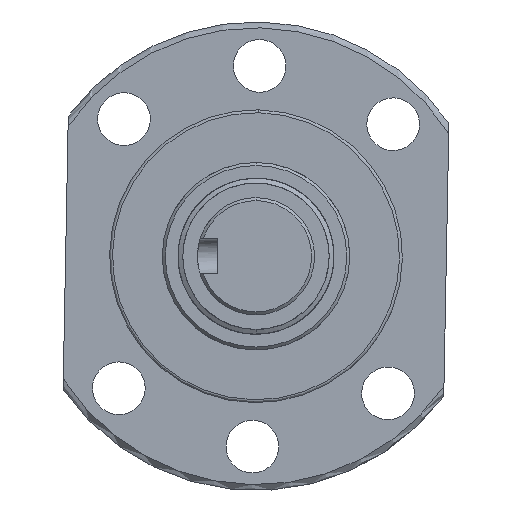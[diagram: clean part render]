
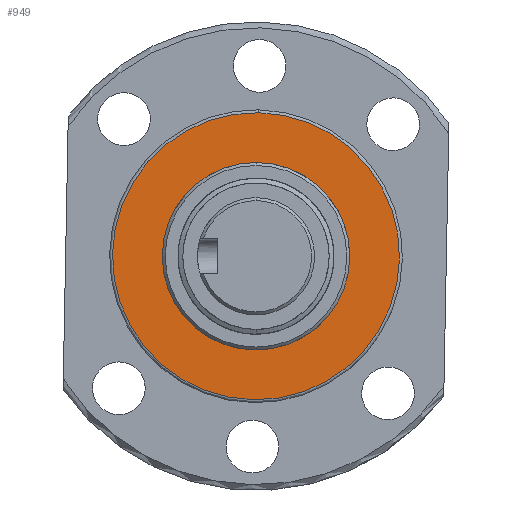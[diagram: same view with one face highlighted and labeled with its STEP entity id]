
A CAD part, left-side view. The second image highlights one B-rep face of the part: STEP entity #949.
In plain terms, the highlighted planar face has unit normal (-1, 0, 0).
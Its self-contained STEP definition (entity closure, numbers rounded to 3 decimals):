
#25 = VERTEX_POINT ( 'NONE', #4162 ) ;
#37 = ORIENTED_EDGE ( 'NONE', *, *, #3532, .F. ) ;
#135 = EDGE_CURVE ( 'NONE', #25, #1876, #3076, .T. ) ;
#171 = EDGE_CURVE ( 'NONE', #3007, #3489, #318, .T. ) ;
#233 = AXIS2_PLACEMENT_3D ( 'NONE', #5170, #3847, #2214 ) ;
#318 = CIRCLE ( 'NONE', #233, 24.5 ) ;
#436 = AXIS2_PLACEMENT_3D ( 'NONE', #3618, #4459, #5401 ) ;
#870 = EDGE_LOOP ( 'NONE', ( #37, #5220 ) ) ;
#949 = ADVANCED_FACE ( 'NONE', ( #2217, #4427 ), #5259, .T. ) ;
#1070 = CARTESIAN_POINT ( 'NONE',  ( 356.726, 867.225, 1279.83 ) ) ;
#1200 = DIRECTION ( 'NONE',  ( -1., 0., 0. ) ) ;
#1209 = EDGE_LOOP ( 'NONE', ( #2584, #2088 ) ) ;
#1269 = DIRECTION ( 'NONE',  ( 0., 0.987, -0.159 ) ) ;
#1492 = CARTESIAN_POINT ( 'NONE',  ( 356.726, 883.022, 1277.285 ) ) ;
#1619 = CARTESIAN_POINT ( 'NONE',  ( 356.726, 867.225, 1279.83 ) ) ;
#1666 = CARTESIAN_POINT ( 'NONE',  ( 356.726, 867.225, 1279.83 ) ) ;
#1876 = VERTEX_POINT ( 'NONE', #1492 ) ;
#2062 = AXIS2_PLACEMENT_3D ( 'NONE', #1666, #2096, #1269 ) ;
#2088 = ORIENTED_EDGE ( 'NONE', *, *, #171, .T. ) ;
#2096 = DIRECTION ( 'NONE',  ( -1., 0., 0. ) ) ;
#2204 = EDGE_CURVE ( 'NONE', #3489, #3007, #3184, .T. ) ;
#2214 = DIRECTION ( 'NONE',  ( 0., 0.987, -0.159 ) ) ;
#2217 = FACE_BOUND ( 'NONE', #870, .T. ) ;
#2434 = CIRCLE ( 'NONE', #5632, 16. ) ;
#2505 = DIRECTION ( 'NONE',  ( 0., 0.987, -0.159 ) ) ;
#2584 = ORIENTED_EDGE ( 'NONE', *, *, #2204, .T. ) ;
#3007 = VERTEX_POINT ( 'NONE', #4029 ) ;
#3076 = CIRCLE ( 'NONE', #2062, 16. ) ;
#3184 = CIRCLE ( 'NONE', #4276, 24.5 ) ;
#3489 = VERTEX_POINT ( 'NONE', #4565 ) ;
#3532 = EDGE_CURVE ( 'NONE', #1876, #25, #2434, .T. ) ;
#3576 = DIRECTION ( 'NONE',  ( 0., 0.987, -0.159 ) ) ;
#3608 = DIRECTION ( 'NONE',  ( -1., 0., 0. ) ) ;
#3618 = CARTESIAN_POINT ( 'NONE',  ( 356.726, 867.225, 1279.83 ) ) ;
#3847 = DIRECTION ( 'NONE',  ( -1., 0., 0. ) ) ;
#4029 = CARTESIAN_POINT ( 'NONE',  ( 356.726, 843.037, 1283.725 ) ) ;
#4162 = CARTESIAN_POINT ( 'NONE',  ( 356.726, 851.429, 1282.374 ) ) ;
#4276 = AXIS2_PLACEMENT_3D ( 'NONE', #1619, #1200, #2505 ) ;
#4427 = FACE_OUTER_BOUND ( 'NONE', #1209, .T. ) ;
#4459 = DIRECTION ( 'NONE',  ( -1., 0., 0. ) ) ;
#4565 = CARTESIAN_POINT ( 'NONE',  ( 356.726, 891.414, 1275.934 ) ) ;
#5170 = CARTESIAN_POINT ( 'NONE',  ( 356.726, 867.225, 1279.83 ) ) ;
#5220 = ORIENTED_EDGE ( 'NONE', *, *, #135, .F. ) ;
#5259 = PLANE ( 'NONE',  #436 ) ;
#5401 = DIRECTION ( 'NONE',  ( 0., 0.987, -0.159 ) ) ;
#5632 = AXIS2_PLACEMENT_3D ( 'NONE', #1070, #3608, #3576 ) ;
